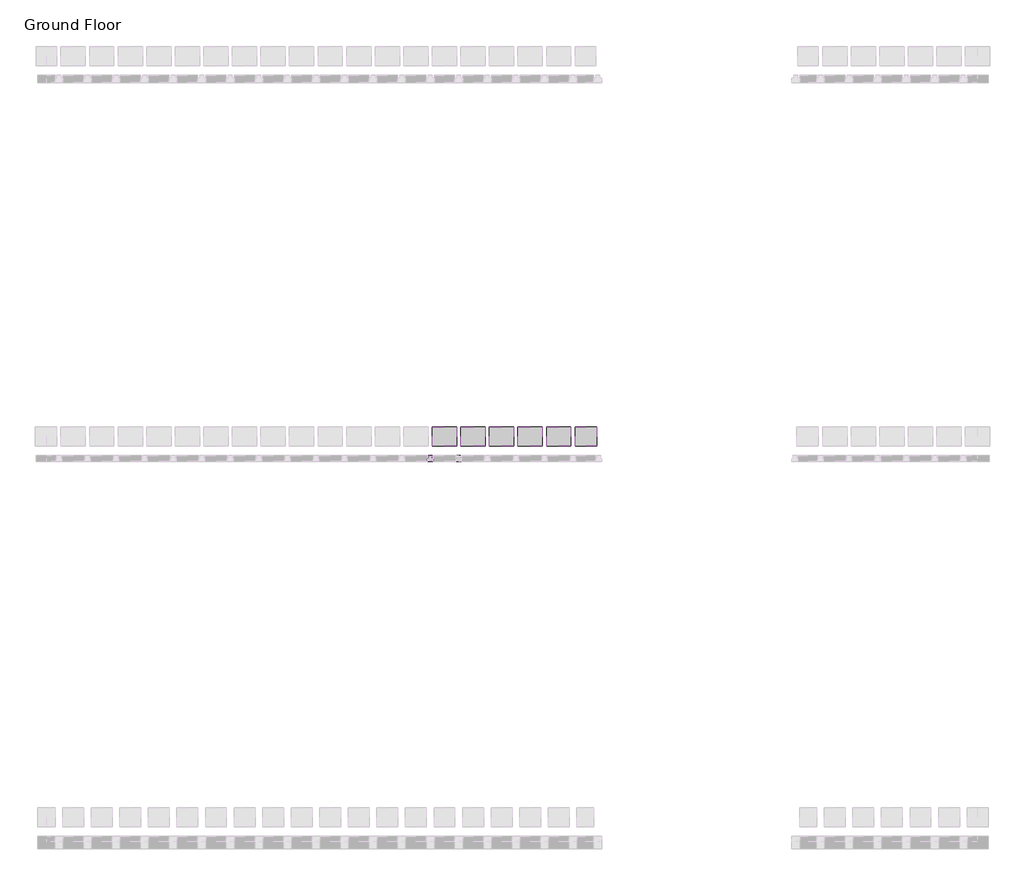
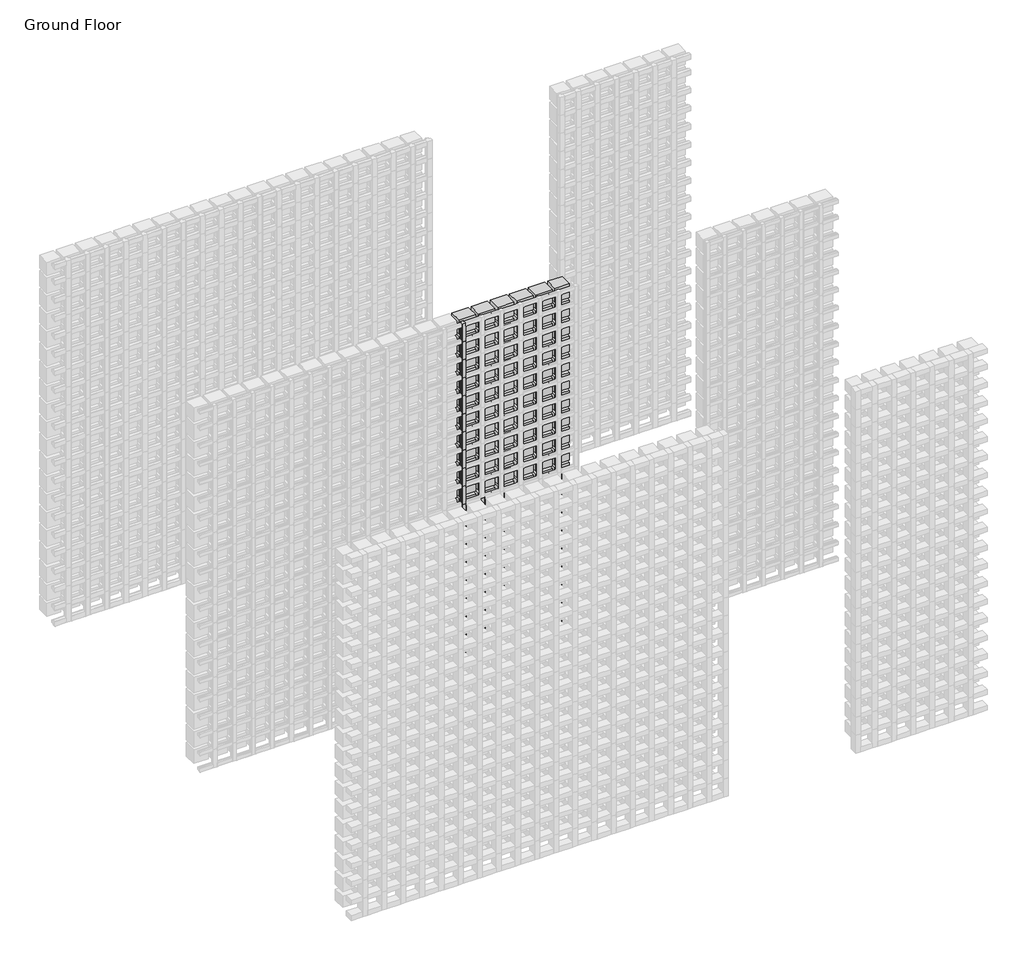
# One storey, part 150 of 350: 111 plates, 28 members.
"""IFC4 building model written with IfcOpenShell, lengths in millimetres."""

from ifc_helpers import new_model, si_unit, origin, place, context, project, spatial, transform, mapped, element, save
from components import rectangular_mullion_f1976eb1, empty_system_panel_empty_5a3607ba, empty_system_panel_empty_babc703c, empty_system_panel_empty_56815599, empty_system_panel_empty_50ac6329

model = new_model("IFC4")

# Units and contexts
model_context = context("Model", 3, world=origin())
ifc_project = project(units=[si_unit("LENGTHUNIT", "METRE", prefix="MILLI")], contexts=[model_context])

# Site, building, storey
site = spatial("IfcSite", under=ifc_project)
building = spatial("IfcBuilding", under=site)
storey = spatial("IfcBuildingStorey", under=building, Name="Ground Floor", Elevation=0.0)

# Members
placement = place(None, origin())
rectangular_mullion_shape = rectangular_mullion_f1976eb1(model_context)
element("IfcMember", 1, ObjectType="Rectangular Mullion : Batten_Timber_Modinex_Austratus_Grid_Fin_30x30_Hemlock", at=placement, inside=storey, context=model_context, shape_type="MappedRepresentation", body=[
    mapped(rectangular_mullion_shape, transform((12016.4361642, 42968.2978302, 150.0), x_axis=(1.0, 0.0, 0.0), y_axis=(0.0, -1.0, 0.0), z_axis=(0.0, 0.0, -1.0))),
])
element("IfcMember", 2, ObjectType="Rectangular Mullion : Batten_Timber_Modinex_Austratus_Grid_Fin_30x30_Hemlock", at=placement, inside=storey, context=model_context, shape_type="MappedRepresentation", body=[
    mapped(rectangular_mullion_shape, transform((12016.4361642, 42968.2978302, 300.0), x_axis=(1.0, 0.0, 0.0), y_axis=(0.0, -1.0, 0.0), z_axis=(0.0, 0.0, -1.0))),
])
element("IfcMember", 3, ObjectType="Rectangular Mullion : Batten_Timber_Modinex_Austratus_Grid_Fin_30x30_Hemlock", at=placement, inside=storey, context=model_context, shape_type="MappedRepresentation", body=[
    mapped(rectangular_mullion_shape, transform((12016.4361642, 42968.2978302, 450.0), x_axis=(1.0, 0.0, 0.0), y_axis=(0.0, -1.0, 0.0), z_axis=(0.0, 0.0, -1.0))),
])
element("IfcMember", 4, ObjectType="Rectangular Mullion : Batten_Timber_Modinex_Austratus_Grid_Fin_30x30_Hemlock", at=placement, inside=storey, context=model_context, shape_type="MappedRepresentation", body=[
    mapped(rectangular_mullion_shape, transform((12016.4361642, 42968.2978302, 600.0), x_axis=(1.0, 0.0, 0.0), y_axis=(0.0, -1.0, 0.0), z_axis=(0.0, 0.0, -1.0))),
])
element("IfcMember", 5, ObjectType="Rectangular Mullion : Batten_Timber_Modinex_Austratus_Grid_Fin_30x30_Hemlock", at=placement, inside=storey, context=model_context, shape_type="MappedRepresentation", body=[
    mapped(rectangular_mullion_shape, transform((12016.4361642, 42968.2978302, 750.0), x_axis=(1.0, 0.0, 0.0), y_axis=(0.0, -1.0, 0.0), z_axis=(0.0, 0.0, -1.0))),
])
element("IfcMember", 6, ObjectType="Rectangular Mullion : Batten_Timber_Modinex_Austratus_Grid_Fin_30x30_Hemlock", at=placement, inside=storey, context=model_context, shape_type="MappedRepresentation", body=[
    mapped(rectangular_mullion_shape, transform((12016.4361642, 42968.2978302, 900.0), x_axis=(1.0, 0.0, 0.0), y_axis=(0.0, -1.0, 0.0), z_axis=(0.0, 0.0, -1.0))),
])
element("IfcMember", 7, ObjectType="Rectangular Mullion : Batten_Timber_Modinex_Austratus_Grid_Fin_30x30_Hemlock", at=placement, inside=storey, context=model_context, shape_type="MappedRepresentation", body=[
    mapped(rectangular_mullion_shape, transform((12016.4361642, 42968.2978302, 1050.0), x_axis=(1.0, 0.0, 0.0), y_axis=(0.0, -1.0, 0.0), z_axis=(0.0, 0.0, -1.0))),
])
element("IfcMember", 8, ObjectType="Rectangular Mullion : Batten_Timber_Modinex_Austratus_Grid_Fin_30x30_Hemlock", at=placement, inside=storey, context=model_context, shape_type="MappedRepresentation", body=[
    mapped(rectangular_mullion_shape, transform((12016.4361642, 42968.2978302, 1200.0), x_axis=(1.0, 0.0, 0.0), y_axis=(0.0, -1.0, 0.0), z_axis=(0.0, 0.0, -1.0))),
])
element("IfcMember", 9, ObjectType="Rectangular Mullion : Batten_Timber_Modinex_Austratus_Grid_Fin_30x30_Hemlock", at=placement, inside=storey, context=model_context, shape_type="MappedRepresentation", body=[
    mapped(rectangular_mullion_shape, transform((12016.4361642, 42968.2978302, 1350.0), x_axis=(1.0, 0.0, 0.0), y_axis=(0.0, -1.0, 0.0), z_axis=(0.0, 0.0, -1.0))),
])
element("IfcMember", 10, ObjectType="Rectangular Mullion : Batten_Timber_Modinex_Austratus_Grid_Fin_30x30_Hemlock", at=placement, inside=storey, context=model_context, shape_type="MappedRepresentation", body=[
    mapped(rectangular_mullion_shape, transform((12016.4361642, 42968.2978302, 1500.0), x_axis=(1.0, 0.0, 0.0), y_axis=(0.0, -1.0, 0.0), z_axis=(0.0, 0.0, -1.0))),
])
element("IfcMember", 11, ObjectType="Rectangular Mullion : Batten_Timber_Modinex_Austratus_Grid_Fin_30x30_Hemlock", at=placement, inside=storey, context=model_context, shape_type="MappedRepresentation", body=[
    mapped(rectangular_mullion_shape, transform((12016.4361642, 42968.2978302, 1650.0), x_axis=(1.0, 0.0, 0.0), y_axis=(0.0, -1.0, 0.0), z_axis=(0.0, 0.0, -1.0))),
])
element("IfcMember", 12, ObjectType="Rectangular Mullion : Batten_Timber_Modinex_Austratus_Grid_Fin_30x30_Hemlock", at=placement, inside=storey, context=model_context, shape_type="MappedRepresentation", body=[
    mapped(rectangular_mullion_shape, transform((12016.4361642, 42968.2978302, 1800.0), x_axis=(1.0, 0.0, 0.0), y_axis=(0.0, -1.0, 0.0), z_axis=(0.0, 0.0, -1.0))),
])
element("IfcMember", 13, ObjectType="Rectangular Mullion : Batten_Timber_Modinex_Austratus_Grid_Fin_30x30_Hemlock", at=placement, inside=storey, context=model_context, shape_type="MappedRepresentation", body=[
    mapped(rectangular_mullion_shape, transform((12016.4361642, 42968.2978302, 1950.0), x_axis=(1.0, 0.0, 0.0), y_axis=(0.0, -1.0, 0.0), z_axis=(0.0, 0.0, -1.0))),
])
element("IfcMember", 14, ObjectType="Rectangular Mullion : Batten_Timber_Modinex_Austratus_Grid_Fin_30x30_Hemlock", at=placement, inside=storey, context=model_context, shape_type="MappedRepresentation", body=[
    mapped(rectangular_mullion_shape, transform((12016.4361642, 42968.2978302, 2100.0), x_axis=(1.0, 0.0, 0.0), y_axis=(0.0, -1.0, 0.0), z_axis=(0.0, 0.0, -1.0))),
])
element("IfcMember", 15, ObjectType="Rectangular Mullion : Batten_Timber_Modinex_Austratus_Grid_Fin_30x30_Hemlock", at=placement, inside=storey, context=model_context, shape_type="MappedRepresentation", body=[
    mapped(rectangular_mullion_shape, transform((12016.4361642, 42968.2978302, 2250.0), x_axis=(1.0, 0.0, 0.0), y_axis=(0.0, -1.0, 0.0), z_axis=(0.0, 0.0, -1.0))),
])
element("IfcMember", 16, ObjectType="Rectangular Mullion : Batten_Timber_Modinex_Austratus_Grid_Fin_30x30_Hemlock", at=placement, inside=storey, context=model_context, shape_type="MappedRepresentation", body=[
    mapped(rectangular_mullion_shape, transform((12016.4361642, 42968.2978302, 2400.0), x_axis=(1.0, 0.0, 0.0), y_axis=(0.0, -1.0, 0.0), z_axis=(0.0, 0.0, -1.0))),
])
element("IfcMember", 17, ObjectType="Rectangular Mullion : Batten_Timber_Modinex_Austratus_Grid_Fin_30x30_Hemlock", at=placement, inside=storey, context=model_context, shape_type="MappedRepresentation", body=[
    mapped(rectangular_mullion_shape, transform((12016.4361642, 42968.2978302, 2550.0), x_axis=(1.0, 0.0, 0.0), y_axis=(0.0, -1.0, 0.0), z_axis=(0.0, 0.0, -1.0))),
])
element("IfcMember", 18, ObjectType="Rectangular Mullion : Batten_Timber_Modinex_Austratus_Grid_Fin_30x30_Hemlock", at=placement, inside=storey, context=model_context, shape_type="MappedRepresentation", body=[
    mapped(rectangular_mullion_shape, transform((12016.4361642, 42968.2978302, 2700.0), x_axis=(1.0, 0.0, 0.0), y_axis=(0.0, -1.0, 0.0), z_axis=(0.0, 0.0, -1.0))),
])
element("IfcMember", 19, ObjectType="Rectangular Mullion : Batten_Timber_Modinex_Austratus_Grid_Fin_30x30_Hemlock", at=placement, inside=storey, context=model_context, shape_type="MappedRepresentation", body=[
    mapped(rectangular_mullion_shape, transform((12166.4361642, 42968.2978302, 150.0), x_axis=(1.0, 0.0, 0.0), y_axis=(0.0, -1.0, 0.0), z_axis=(0.0, 0.0, -1.0))),
])
element("IfcMember", 20, ObjectType="Rectangular Mullion : Batten_Timber_Modinex_Austratus_Grid_Fin_30x30_Hemlock", at=placement, inside=storey, context=model_context, shape_type="MappedRepresentation", body=[
    mapped(rectangular_mullion_shape, transform((12166.4361642, 42968.2978302, 300.0), x_axis=(1.0, 0.0, 0.0), y_axis=(0.0, -1.0, 0.0), z_axis=(0.0, 0.0, -1.0))),
])
element("IfcMember", 21, ObjectType="Rectangular Mullion : Batten_Timber_Modinex_Austratus_Grid_Fin_30x30_Hemlock", at=placement, inside=storey, context=model_context, shape_type="MappedRepresentation", body=[
    mapped(rectangular_mullion_shape, transform((12166.4361642, 42968.2978302, 450.0), x_axis=(1.0, 0.0, 0.0), y_axis=(0.0, -1.0, 0.0), z_axis=(0.0, 0.0, -1.0))),
])
element("IfcMember", 22, ObjectType="Rectangular Mullion : Batten_Timber_Modinex_Austratus_Grid_Fin_30x30_Hemlock", at=placement, inside=storey, context=model_context, shape_type="MappedRepresentation", body=[
    mapped(rectangular_mullion_shape, transform((12166.4361642, 42968.2978302, 600.0), x_axis=(1.0, 0.0, 0.0), y_axis=(0.0, -1.0, 0.0), z_axis=(0.0, 0.0, -1.0))),
])
element("IfcMember", 23, ObjectType="Rectangular Mullion : Batten_Timber_Modinex_Austratus_Grid_Fin_30x30_Hemlock", at=placement, inside=storey, context=model_context, shape_type="MappedRepresentation", body=[
    mapped(rectangular_mullion_shape, transform((12166.4361642, 42968.2978302, 750.0), x_axis=(1.0, 0.0, 0.0), y_axis=(0.0, -1.0, 0.0), z_axis=(0.0, 0.0, -1.0))),
])
element("IfcMember", 24, ObjectType="Rectangular Mullion : Batten_Timber_Modinex_Austratus_Grid_Fin_30x30_Hemlock", at=placement, inside=storey, context=model_context, shape_type="MappedRepresentation", body=[
    mapped(rectangular_mullion_shape, transform((12166.4361642, 42968.2978302, 900.0), x_axis=(1.0, 0.0, 0.0), y_axis=(0.0, -1.0, 0.0), z_axis=(0.0, 0.0, -1.0))),
])
element("IfcMember", 25, ObjectType="Rectangular Mullion : Batten_Timber_Modinex_Austratus_Grid_Fin_30x30_Hemlock", at=placement, inside=storey, context=model_context, shape_type="MappedRepresentation", body=[
    mapped(rectangular_mullion_shape, transform((12166.4361642, 42968.2978302, 1050.0), x_axis=(1.0, 0.0, 0.0), y_axis=(0.0, -1.0, 0.0), z_axis=(0.0, 0.0, -1.0))),
])
element("IfcMember", 26, ObjectType="Rectangular Mullion : Batten_Timber_Modinex_Austratus_Grid_Fin_30x30_Hemlock", at=placement, inside=storey, context=model_context, shape_type="MappedRepresentation", body=[
    mapped(rectangular_mullion_shape, transform((12166.4361642, 42968.2978302, 1200.0), x_axis=(1.0, 0.0, 0.0), y_axis=(0.0, -1.0, 0.0), z_axis=(0.0, 0.0, -1.0))),
])
element("IfcMember", 27, ObjectType="Rectangular Mullion : Batten_Timber_Modinex_Austratus_Grid_Fin_30x30_Hemlock", at=placement, inside=storey, context=model_context, shape_type="MappedRepresentation", body=[
    mapped(rectangular_mullion_shape, transform((12166.4361642, 42968.2978302, 1350.0), x_axis=(1.0, 0.0, 0.0), y_axis=(0.0, -1.0, 0.0), z_axis=(0.0, 0.0, -1.0))),
])
element("IfcMember", 28, ObjectType="Rectangular Mullion : Batten_Timber_Modinex_Austratus_Grid_Fin_30x30_Hemlock", at=placement, inside=storey, context=model_context, shape_type="MappedRepresentation", body=[
    mapped(rectangular_mullion_shape, transform((12016.4361642, 42968.2978302, 2850.0), x_axis=(1.0, 0.0, 0.0), y_axis=(0.0, -1.0, 0.0), z_axis=(0.0, 0.0, -1.0))),
])

# Plates
empty_system_panel_empty_shape = empty_system_panel_empty_5a3607ba(model_context)
element("IfcPlate", 29, ObjectType="Empty System Panel : Empty", at=placement, inside=storey, context=model_context, shape_type="MappedRepresentation", body=[
    mapped(empty_system_panel_empty_shape, transform((12541.4361642, 42968.2978302, 160.812195), x_axis=(1.0, 0.0, 0.0), y_axis=(0.0, 1.0, 0.0), z_axis=(0.0, 0.0, 1.0))),
])
element("IfcPlate", 30, ObjectType="Empty System Panel : Empty", at=placement, inside=storey, context=model_context, shape_type="MappedRepresentation", body=[
    mapped(empty_system_panel_empty_shape, transform((12691.4361642, 42968.2978302, 160.812195), x_axis=(1.0, 0.0, 0.0), y_axis=(0.0, 1.0, 0.0), z_axis=(0.0, 0.0, 1.0))),
])
element("IfcPlate", 31, ObjectType="Empty System Panel : Empty", at=placement, inside=storey, context=model_context, shape_type="MappedRepresentation", body=[
    mapped(empty_system_panel_empty_shape, transform((12091.4361642, 42968.2978302, 310.812195), x_axis=(1.0, 0.0, 0.0), y_axis=(0.0, 1.0, 0.0), z_axis=(0.0, 0.0, 1.0))),
])
element("IfcPlate", 32, ObjectType="Empty System Panel : Empty", at=placement, inside=storey, context=model_context, shape_type="MappedRepresentation", body=[
    mapped(empty_system_panel_empty_shape, transform((12241.4361642, 42968.2978302, 310.812195), x_axis=(1.0, 0.0, 0.0), y_axis=(0.0, 1.0, 0.0), z_axis=(0.0, 0.0, 1.0))),
])
element("IfcPlate", 33, ObjectType="Empty System Panel : Empty", at=placement, inside=storey, context=model_context, shape_type="MappedRepresentation", body=[
    mapped(empty_system_panel_empty_shape, transform((12391.4361642, 42968.2978302, 310.812195), x_axis=(1.0, 0.0, 0.0), y_axis=(0.0, 1.0, 0.0), z_axis=(0.0, 0.0, 1.0))),
])
element("IfcPlate", 34, ObjectType="Empty System Panel : Empty", at=placement, inside=storey, context=model_context, shape_type="MappedRepresentation", body=[
    mapped(empty_system_panel_empty_shape, transform((12541.4361642, 42968.2978302, 310.812195), x_axis=(1.0, 0.0, 0.0), y_axis=(0.0, 1.0, 0.0), z_axis=(0.0, 0.0, 1.0))),
])
element("IfcPlate", 35, ObjectType="Empty System Panel : Empty", at=placement, inside=storey, context=model_context, shape_type="MappedRepresentation", body=[
    mapped(empty_system_panel_empty_shape, transform((12691.4361642, 42968.2978302, 310.812195), x_axis=(1.0, 0.0, 0.0), y_axis=(0.0, 1.0, 0.0), z_axis=(0.0, 0.0, 1.0))),
])
element("IfcPlate", 36, ObjectType="Empty System Panel : Empty", at=placement, inside=storey, context=model_context, shape_type="MappedRepresentation", body=[
    mapped(empty_system_panel_empty_shape, transform((12091.4361642, 42968.2978302, 460.812195), x_axis=(1.0, 0.0, 0.0), y_axis=(0.0, 1.0, 0.0), z_axis=(0.0, 0.0, 1.0))),
])
element("IfcPlate", 37, ObjectType="Empty System Panel : Empty", at=placement, inside=storey, context=model_context, shape_type="MappedRepresentation", body=[
    mapped(empty_system_panel_empty_shape, transform((12241.4361642, 42968.2978302, 460.812195), x_axis=(1.0, 0.0, 0.0), y_axis=(0.0, 1.0, 0.0), z_axis=(0.0, 0.0, 1.0))),
])
element("IfcPlate", 38, ObjectType="Empty System Panel : Empty", at=placement, inside=storey, context=model_context, shape_type="MappedRepresentation", body=[
    mapped(empty_system_panel_empty_shape, transform((12391.4361642, 42968.2978302, 460.812195), x_axis=(1.0, 0.0, 0.0), y_axis=(0.0, 1.0, 0.0), z_axis=(0.0, 0.0, 1.0))),
])
element("IfcPlate", 39, ObjectType="Empty System Panel : Empty", at=placement, inside=storey, context=model_context, shape_type="MappedRepresentation", body=[
    mapped(empty_system_panel_empty_shape, transform((12541.4361642, 42968.2978302, 460.812195), x_axis=(1.0, 0.0, 0.0), y_axis=(0.0, 1.0, 0.0), z_axis=(0.0, 0.0, 1.0))),
])
element("IfcPlate", 40, ObjectType="Empty System Panel : Empty", at=placement, inside=storey, context=model_context, shape_type="MappedRepresentation", body=[
    mapped(empty_system_panel_empty_shape, transform((12691.4361642, 42968.2978302, 460.812195), x_axis=(1.0, 0.0, 0.0), y_axis=(0.0, 1.0, 0.0), z_axis=(0.0, 0.0, 1.0))),
])
element("IfcPlate", 41, ObjectType="Empty System Panel : Empty", at=placement, inside=storey, context=model_context, shape_type="MappedRepresentation", body=[
    mapped(empty_system_panel_empty_shape, transform((12091.4361642, 42968.2978302, 610.812195), x_axis=(1.0, 0.0, 0.0), y_axis=(0.0, 1.0, 0.0), z_axis=(0.0, 0.0, 1.0))),
])
element("IfcPlate", 42, ObjectType="Empty System Panel : Empty", at=placement, inside=storey, context=model_context, shape_type="MappedRepresentation", body=[
    mapped(empty_system_panel_empty_shape, transform((12241.4361642, 42968.2978302, 610.812195), x_axis=(1.0, 0.0, 0.0), y_axis=(0.0, 1.0, 0.0), z_axis=(0.0, 0.0, 1.0))),
])
element("IfcPlate", 43, ObjectType="Empty System Panel : Empty", at=placement, inside=storey, context=model_context, shape_type="MappedRepresentation", body=[
    mapped(empty_system_panel_empty_shape, transform((12391.4361642, 42968.2978302, 610.812195), x_axis=(1.0, 0.0, 0.0), y_axis=(0.0, 1.0, 0.0), z_axis=(0.0, 0.0, 1.0))),
])
element("IfcPlate", 44, ObjectType="Empty System Panel : Empty", at=placement, inside=storey, context=model_context, shape_type="MappedRepresentation", body=[
    mapped(empty_system_panel_empty_shape, transform((12541.4361642, 42968.2978302, 610.812195), x_axis=(1.0, 0.0, 0.0), y_axis=(0.0, 1.0, 0.0), z_axis=(0.0, 0.0, 1.0))),
])
element("IfcPlate", 45, ObjectType="Empty System Panel : Empty", at=placement, inside=storey, context=model_context, shape_type="MappedRepresentation", body=[
    mapped(empty_system_panel_empty_shape, transform((12691.4361642, 42968.2978302, 610.812195), x_axis=(1.0, 0.0, 0.0), y_axis=(0.0, 1.0, 0.0), z_axis=(0.0, 0.0, 1.0))),
])
element("IfcPlate", 46, ObjectType="Empty System Panel : Empty", at=placement, inside=storey, context=model_context, shape_type="MappedRepresentation", body=[
    mapped(empty_system_panel_empty_shape, transform((12091.4361642, 42968.2978302, 760.812195), x_axis=(1.0, 0.0, 0.0), y_axis=(0.0, 1.0, 0.0), z_axis=(0.0, 0.0, 1.0))),
])
element("IfcPlate", 47, ObjectType="Empty System Panel : Empty", at=placement, inside=storey, context=model_context, shape_type="MappedRepresentation", body=[
    mapped(empty_system_panel_empty_shape, transform((12241.4361642, 42968.2978302, 760.812195), x_axis=(1.0, 0.0, 0.0), y_axis=(0.0, 1.0, 0.0), z_axis=(0.0, 0.0, 1.0))),
])
element("IfcPlate", 48, ObjectType="Empty System Panel : Empty", at=placement, inside=storey, context=model_context, shape_type="MappedRepresentation", body=[
    mapped(empty_system_panel_empty_shape, transform((12391.4361642, 42968.2978302, 760.812195), x_axis=(1.0, 0.0, 0.0), y_axis=(0.0, 1.0, 0.0), z_axis=(0.0, 0.0, 1.0))),
])
element("IfcPlate", 49, ObjectType="Empty System Panel : Empty", at=placement, inside=storey, context=model_context, shape_type="MappedRepresentation", body=[
    mapped(empty_system_panel_empty_shape, transform((12541.4361642, 42968.2978302, 760.812195), x_axis=(1.0, 0.0, 0.0), y_axis=(0.0, 1.0, 0.0), z_axis=(0.0, 0.0, 1.0))),
])
element("IfcPlate", 50, ObjectType="Empty System Panel : Empty", at=placement, inside=storey, context=model_context, shape_type="MappedRepresentation", body=[
    mapped(empty_system_panel_empty_shape, transform((12691.4361642, 42968.2978302, 760.812195), x_axis=(1.0, 0.0, 0.0), y_axis=(0.0, 1.0, 0.0), z_axis=(0.0, 0.0, 1.0))),
])
element("IfcPlate", 51, ObjectType="Empty System Panel : Empty", at=placement, inside=storey, context=model_context, shape_type="MappedRepresentation", body=[
    mapped(empty_system_panel_empty_shape, transform((12091.4361642, 42968.2978302, 910.812195), x_axis=(1.0, 0.0, 0.0), y_axis=(0.0, 1.0, 0.0), z_axis=(0.0, 0.0, 1.0))),
])
element("IfcPlate", 52, ObjectType="Empty System Panel : Empty", at=placement, inside=storey, context=model_context, shape_type="MappedRepresentation", body=[
    mapped(empty_system_panel_empty_shape, transform((12241.4361642, 42968.2978302, 910.812195), x_axis=(1.0, 0.0, 0.0), y_axis=(0.0, 1.0, 0.0), z_axis=(0.0, 0.0, 1.0))),
])
element("IfcPlate", 53, ObjectType="Empty System Panel : Empty", at=placement, inside=storey, context=model_context, shape_type="MappedRepresentation", body=[
    mapped(empty_system_panel_empty_shape, transform((12391.4361642, 42968.2978302, 910.812195), x_axis=(1.0, 0.0, 0.0), y_axis=(0.0, 1.0, 0.0), z_axis=(0.0, 0.0, 1.0))),
])
element("IfcPlate", 54, ObjectType="Empty System Panel : Empty", at=placement, inside=storey, context=model_context, shape_type="MappedRepresentation", body=[
    mapped(empty_system_panel_empty_shape, transform((12541.4361642, 42968.2978302, 910.812195), x_axis=(1.0, 0.0, 0.0), y_axis=(0.0, 1.0, 0.0), z_axis=(0.0, 0.0, 1.0))),
])
element("IfcPlate", 55, ObjectType="Empty System Panel : Empty", at=placement, inside=storey, context=model_context, shape_type="MappedRepresentation", body=[
    mapped(empty_system_panel_empty_shape, transform((12691.4361642, 42968.2978302, 910.812195), x_axis=(1.0, 0.0, 0.0), y_axis=(0.0, 1.0, 0.0), z_axis=(0.0, 0.0, 1.0))),
])
element("IfcPlate", 56, ObjectType="Empty System Panel : Empty", at=placement, inside=storey, context=model_context, shape_type="MappedRepresentation", body=[
    mapped(empty_system_panel_empty_shape, transform((12091.4361642, 42968.2978302, 1060.812195), x_axis=(1.0, 0.0, 0.0), y_axis=(0.0, 1.0, 0.0), z_axis=(0.0, 0.0, 1.0))),
])
element("IfcPlate", 57, ObjectType="Empty System Panel : Empty", at=placement, inside=storey, context=model_context, shape_type="MappedRepresentation", body=[
    mapped(empty_system_panel_empty_shape, transform((12241.4361642, 42968.2978302, 1060.812195), x_axis=(1.0, 0.0, 0.0), y_axis=(0.0, 1.0, 0.0), z_axis=(0.0, 0.0, 1.0))),
])
element("IfcPlate", 58, ObjectType="Empty System Panel : Empty", at=placement, inside=storey, context=model_context, shape_type="MappedRepresentation", body=[
    mapped(empty_system_panel_empty_shape, transform((12391.4361642, 42968.2978302, 1060.812195), x_axis=(1.0, 0.0, 0.0), y_axis=(0.0, 1.0, 0.0), z_axis=(0.0, 0.0, 1.0))),
])
element("IfcPlate", 59, ObjectType="Empty System Panel : Empty", at=placement, inside=storey, context=model_context, shape_type="MappedRepresentation", body=[
    mapped(empty_system_panel_empty_shape, transform((12541.4361642, 42968.2978302, 1060.812195), x_axis=(1.0, 0.0, 0.0), y_axis=(0.0, 1.0, 0.0), z_axis=(0.0, 0.0, 1.0))),
])
element("IfcPlate", 60, ObjectType="Empty System Panel : Empty", at=placement, inside=storey, context=model_context, shape_type="MappedRepresentation", body=[
    mapped(empty_system_panel_empty_shape, transform((12691.4361642, 42968.2978302, 1060.812195), x_axis=(1.0, 0.0, 0.0), y_axis=(0.0, 1.0, 0.0), z_axis=(0.0, 0.0, 1.0))),
])
element("IfcPlate", 61, ObjectType="Empty System Panel : Empty", at=placement, inside=storey, context=model_context, shape_type="MappedRepresentation", body=[
    mapped(empty_system_panel_empty_shape, transform((12091.4361642, 42968.2978302, 1210.812195), x_axis=(1.0, 0.0, 0.0), y_axis=(0.0, 1.0, 0.0), z_axis=(0.0, 0.0, 1.0))),
])
element("IfcPlate", 62, ObjectType="Empty System Panel : Empty", at=placement, inside=storey, context=model_context, shape_type="MappedRepresentation", body=[
    mapped(empty_system_panel_empty_shape, transform((12241.4361642, 42968.2978302, 1210.812195), x_axis=(1.0, 0.0, 0.0), y_axis=(0.0, 1.0, 0.0), z_axis=(0.0, 0.0, 1.0))),
])
element("IfcPlate", 63, ObjectType="Empty System Panel : Empty", at=placement, inside=storey, context=model_context, shape_type="MappedRepresentation", body=[
    mapped(empty_system_panel_empty_shape, transform((12391.4361642, 42968.2978302, 1210.812195), x_axis=(1.0, 0.0, 0.0), y_axis=(0.0, 1.0, 0.0), z_axis=(0.0, 0.0, 1.0))),
])
element("IfcPlate", 64, ObjectType="Empty System Panel : Empty", at=placement, inside=storey, context=model_context, shape_type="MappedRepresentation", body=[
    mapped(empty_system_panel_empty_shape, transform((12541.4361642, 42968.2978302, 1210.812195), x_axis=(1.0, 0.0, 0.0), y_axis=(0.0, 1.0, 0.0), z_axis=(0.0, 0.0, 1.0))),
])
element("IfcPlate", 65, ObjectType="Empty System Panel : Empty", at=placement, inside=storey, context=model_context, shape_type="MappedRepresentation", body=[
    mapped(empty_system_panel_empty_shape, transform((12691.4361642, 42968.2978302, 1210.812195), x_axis=(1.0, 0.0, 0.0), y_axis=(0.0, 1.0, 0.0), z_axis=(0.0, 0.0, 1.0))),
])
element("IfcPlate", 66, ObjectType="Empty System Panel : Empty", at=placement, inside=storey, context=model_context, shape_type="MappedRepresentation", body=[
    mapped(empty_system_panel_empty_shape, transform((12091.4361642, 42968.2978302, 1360.812195), x_axis=(1.0, 0.0, 0.0), y_axis=(0.0, 1.0, 0.0), z_axis=(0.0, 0.0, 1.0))),
])
element("IfcPlate", 67, ObjectType="Empty System Panel : Empty", at=placement, inside=storey, context=model_context, shape_type="MappedRepresentation", body=[
    mapped(empty_system_panel_empty_shape, transform((12241.4361642, 42968.2978302, 1360.812195), x_axis=(1.0, 0.0, 0.0), y_axis=(0.0, 1.0, 0.0), z_axis=(0.0, 0.0, 1.0))),
])
element("IfcPlate", 68, ObjectType="Empty System Panel : Empty", at=placement, inside=storey, context=model_context, shape_type="MappedRepresentation", body=[
    mapped(empty_system_panel_empty_shape, transform((12391.4361642, 42968.2978302, 1360.812195), x_axis=(1.0, 0.0, 0.0), y_axis=(0.0, 1.0, 0.0), z_axis=(0.0, 0.0, 1.0))),
])
element("IfcPlate", 69, ObjectType="Empty System Panel : Empty", at=placement, inside=storey, context=model_context, shape_type="MappedRepresentation", body=[
    mapped(empty_system_panel_empty_shape, transform((12541.4361642, 42968.2978302, 1360.812195), x_axis=(1.0, 0.0, 0.0), y_axis=(0.0, 1.0, 0.0), z_axis=(0.0, 0.0, 1.0))),
])
element("IfcPlate", 70, ObjectType="Empty System Panel : Empty", at=placement, inside=storey, context=model_context, shape_type="MappedRepresentation", body=[
    mapped(empty_system_panel_empty_shape, transform((12691.4361642, 42968.2978302, 1360.812195), x_axis=(1.0, 0.0, 0.0), y_axis=(0.0, 1.0, 0.0), z_axis=(0.0, 0.0, 1.0))),
])
element("IfcPlate", 71, ObjectType="Empty System Panel : Empty", at=placement, inside=storey, context=model_context, shape_type="MappedRepresentation", body=[
    mapped(empty_system_panel_empty_shape, transform((12091.4361642, 42968.2978302, 1510.812195), x_axis=(1.0, 0.0, 0.0), y_axis=(0.0, 1.0, 0.0), z_axis=(0.0, 0.0, 1.0))),
])
element("IfcPlate", 72, ObjectType="Empty System Panel : Empty", at=placement, inside=storey, context=model_context, shape_type="MappedRepresentation", body=[
    mapped(empty_system_panel_empty_shape, transform((12241.4361642, 42968.2978302, 1510.812195), x_axis=(1.0, 0.0, 0.0), y_axis=(0.0, 1.0, 0.0), z_axis=(0.0, 0.0, 1.0))),
])
element("IfcPlate", 73, ObjectType="Empty System Panel : Empty", at=placement, inside=storey, context=model_context, shape_type="MappedRepresentation", body=[
    mapped(empty_system_panel_empty_shape, transform((12391.4361642, 42968.2978302, 1510.812195), x_axis=(1.0, 0.0, 0.0), y_axis=(0.0, 1.0, 0.0), z_axis=(0.0, 0.0, 1.0))),
])
element("IfcPlate", 74, ObjectType="Empty System Panel : Empty", at=placement, inside=storey, context=model_context, shape_type="MappedRepresentation", body=[
    mapped(empty_system_panel_empty_shape, transform((12541.4361642, 42968.2978302, 1510.812195), x_axis=(1.0, 0.0, 0.0), y_axis=(0.0, 1.0, 0.0), z_axis=(0.0, 0.0, 1.0))),
])
element("IfcPlate", 75, ObjectType="Empty System Panel : Empty", at=placement, inside=storey, context=model_context, shape_type="MappedRepresentation", body=[
    mapped(empty_system_panel_empty_shape, transform((12691.4361642, 42968.2978302, 1510.812195), x_axis=(1.0, 0.0, 0.0), y_axis=(0.0, 1.0, 0.0), z_axis=(0.0, 0.0, 1.0))),
])
element("IfcPlate", 76, ObjectType="Empty System Panel : Empty", at=placement, inside=storey, context=model_context, shape_type="MappedRepresentation", body=[
    mapped(empty_system_panel_empty_shape, transform((12091.4361642, 42968.2978302, 1660.812195), x_axis=(1.0, 0.0, 0.0), y_axis=(0.0, 1.0, 0.0), z_axis=(0.0, 0.0, 1.0))),
])
element("IfcPlate", 77, ObjectType="Empty System Panel : Empty", at=placement, inside=storey, context=model_context, shape_type="MappedRepresentation", body=[
    mapped(empty_system_panel_empty_shape, transform((12241.4361642, 42968.2978302, 1660.812195), x_axis=(1.0, 0.0, 0.0), y_axis=(0.0, 1.0, 0.0), z_axis=(0.0, 0.0, 1.0))),
])
element("IfcPlate", 78, ObjectType="Empty System Panel : Empty", at=placement, inside=storey, context=model_context, shape_type="MappedRepresentation", body=[
    mapped(empty_system_panel_empty_shape, transform((12391.4361642, 42968.2978302, 1660.812195), x_axis=(1.0, 0.0, 0.0), y_axis=(0.0, 1.0, 0.0), z_axis=(0.0, 0.0, 1.0))),
])
element("IfcPlate", 79, ObjectType="Empty System Panel : Empty", at=placement, inside=storey, context=model_context, shape_type="MappedRepresentation", body=[
    mapped(empty_system_panel_empty_shape, transform((12541.4361642, 42968.2978302, 1660.812195), x_axis=(1.0, 0.0, 0.0), y_axis=(0.0, 1.0, 0.0), z_axis=(0.0, 0.0, 1.0))),
])
element("IfcPlate", 80, ObjectType="Empty System Panel : Empty", at=placement, inside=storey, context=model_context, shape_type="MappedRepresentation", body=[
    mapped(empty_system_panel_empty_shape, transform((12691.4361642, 42968.2978302, 1660.812195), x_axis=(1.0, 0.0, 0.0), y_axis=(0.0, 1.0, 0.0), z_axis=(0.0, 0.0, 1.0))),
])
element("IfcPlate", 81, ObjectType="Empty System Panel : Empty", at=placement, inside=storey, context=model_context, shape_type="MappedRepresentation", body=[
    mapped(empty_system_panel_empty_shape, transform((12091.4361642, 42968.2978302, 1810.812195), x_axis=(1.0, 0.0, 0.0), y_axis=(0.0, 1.0, 0.0), z_axis=(0.0, 0.0, 1.0))),
])
element("IfcPlate", 82, ObjectType="Empty System Panel : Empty", at=placement, inside=storey, context=model_context, shape_type="MappedRepresentation", body=[
    mapped(empty_system_panel_empty_shape, transform((12241.4361642, 42968.2978302, 1810.812195), x_axis=(1.0, 0.0, 0.0), y_axis=(0.0, 1.0, 0.0), z_axis=(0.0, 0.0, 1.0))),
])
element("IfcPlate", 83, ObjectType="Empty System Panel : Empty", at=placement, inside=storey, context=model_context, shape_type="MappedRepresentation", body=[
    mapped(empty_system_panel_empty_shape, transform((12391.4361642, 42968.2978302, 1810.812195), x_axis=(1.0, 0.0, 0.0), y_axis=(0.0, 1.0, 0.0), z_axis=(0.0, 0.0, 1.0))),
])
element("IfcPlate", 84, ObjectType="Empty System Panel : Empty", at=placement, inside=storey, context=model_context, shape_type="MappedRepresentation", body=[
    mapped(empty_system_panel_empty_shape, transform((12541.4361642, 42968.2978302, 1810.812195), x_axis=(1.0, 0.0, 0.0), y_axis=(0.0, 1.0, 0.0), z_axis=(0.0, 0.0, 1.0))),
])
element("IfcPlate", 85, ObjectType="Empty System Panel : Empty", at=placement, inside=storey, context=model_context, shape_type="MappedRepresentation", body=[
    mapped(empty_system_panel_empty_shape, transform((12691.4361642, 42968.2978302, 1810.812195), x_axis=(1.0, 0.0, 0.0), y_axis=(0.0, 1.0, 0.0), z_axis=(0.0, 0.0, 1.0))),
])
element("IfcPlate", 86, ObjectType="Empty System Panel : Empty", at=placement, inside=storey, context=model_context, shape_type="MappedRepresentation", body=[
    mapped(empty_system_panel_empty_shape, transform((12091.4361642, 42968.2978302, 1960.812195), x_axis=(1.0, 0.0, 0.0), y_axis=(0.0, 1.0, 0.0), z_axis=(0.0, 0.0, 1.0))),
])
element("IfcPlate", 87, ObjectType="Empty System Panel : Empty", at=placement, inside=storey, context=model_context, shape_type="MappedRepresentation", body=[
    mapped(empty_system_panel_empty_shape, transform((12241.4361642, 42968.2978302, 1960.812195), x_axis=(1.0, 0.0, 0.0), y_axis=(0.0, 1.0, 0.0), z_axis=(0.0, 0.0, 1.0))),
])
element("IfcPlate", 88, ObjectType="Empty System Panel : Empty", at=placement, inside=storey, context=model_context, shape_type="MappedRepresentation", body=[
    mapped(empty_system_panel_empty_shape, transform((12391.4361642, 42968.2978302, 1960.812195), x_axis=(1.0, 0.0, 0.0), y_axis=(0.0, 1.0, 0.0), z_axis=(0.0, 0.0, 1.0))),
])
element("IfcPlate", 89, ObjectType="Empty System Panel : Empty", at=placement, inside=storey, context=model_context, shape_type="MappedRepresentation", body=[
    mapped(empty_system_panel_empty_shape, transform((12541.4361642, 42968.2978302, 1960.812195), x_axis=(1.0, 0.0, 0.0), y_axis=(0.0, 1.0, 0.0), z_axis=(0.0, 0.0, 1.0))),
])
element("IfcPlate", 90, ObjectType="Empty System Panel : Empty", at=placement, inside=storey, context=model_context, shape_type="MappedRepresentation", body=[
    mapped(empty_system_panel_empty_shape, transform((12691.4361642, 42968.2978302, 1960.812195), x_axis=(1.0, 0.0, 0.0), y_axis=(0.0, 1.0, 0.0), z_axis=(0.0, 0.0, 1.0))),
])
element("IfcPlate", 91, ObjectType="Empty System Panel : Empty", at=placement, inside=storey, context=model_context, shape_type="MappedRepresentation", body=[
    mapped(empty_system_panel_empty_shape, transform((12091.4361642, 42968.2978302, 2110.812195), x_axis=(1.0, 0.0, 0.0), y_axis=(0.0, 1.0, 0.0), z_axis=(0.0, 0.0, 1.0))),
])
element("IfcPlate", 92, ObjectType="Empty System Panel : Empty", at=placement, inside=storey, context=model_context, shape_type="MappedRepresentation", body=[
    mapped(empty_system_panel_empty_shape, transform((12241.4361642, 42968.2978302, 2110.812195), x_axis=(1.0, 0.0, 0.0), y_axis=(0.0, 1.0, 0.0), z_axis=(0.0, 0.0, 1.0))),
])
element("IfcPlate", 93, ObjectType="Empty System Panel : Empty", at=placement, inside=storey, context=model_context, shape_type="MappedRepresentation", body=[
    mapped(empty_system_panel_empty_shape, transform((12391.4361642, 42968.2978302, 2110.812195), x_axis=(1.0, 0.0, 0.0), y_axis=(0.0, 1.0, 0.0), z_axis=(0.0, 0.0, 1.0))),
])
element("IfcPlate", 94, ObjectType="Empty System Panel : Empty", at=placement, inside=storey, context=model_context, shape_type="MappedRepresentation", body=[
    mapped(empty_system_panel_empty_shape, transform((12541.4361642, 42968.2978302, 2110.812195), x_axis=(1.0, 0.0, 0.0), y_axis=(0.0, 1.0, 0.0), z_axis=(0.0, 0.0, 1.0))),
])
element("IfcPlate", 95, ObjectType="Empty System Panel : Empty", at=placement, inside=storey, context=model_context, shape_type="MappedRepresentation", body=[
    mapped(empty_system_panel_empty_shape, transform((12691.4361642, 42968.2978302, 2110.812195), x_axis=(1.0, 0.0, 0.0), y_axis=(0.0, 1.0, 0.0), z_axis=(0.0, 0.0, 1.0))),
])
element("IfcPlate", 96, ObjectType="Empty System Panel : Empty", at=placement, inside=storey, context=model_context, shape_type="MappedRepresentation", body=[
    mapped(empty_system_panel_empty_shape, transform((12091.4361642, 42968.2978302, 2260.812195), x_axis=(1.0, 0.0, 0.0), y_axis=(0.0, 1.0, 0.0), z_axis=(0.0, 0.0, 1.0))),
])
element("IfcPlate", 97, ObjectType="Empty System Panel : Empty", at=placement, inside=storey, context=model_context, shape_type="MappedRepresentation", body=[
    mapped(empty_system_panel_empty_shape, transform((12241.4361642, 42968.2978302, 2260.812195), x_axis=(1.0, 0.0, 0.0), y_axis=(0.0, 1.0, 0.0), z_axis=(0.0, 0.0, 1.0))),
])
element("IfcPlate", 98, ObjectType="Empty System Panel : Empty", at=placement, inside=storey, context=model_context, shape_type="MappedRepresentation", body=[
    mapped(empty_system_panel_empty_shape, transform((12391.4361642, 42968.2978302, 2260.812195), x_axis=(1.0, 0.0, 0.0), y_axis=(0.0, 1.0, 0.0), z_axis=(0.0, 0.0, 1.0))),
])
element("IfcPlate", 99, ObjectType="Empty System Panel : Empty", at=placement, inside=storey, context=model_context, shape_type="MappedRepresentation", body=[
    mapped(empty_system_panel_empty_shape, transform((12541.4361642, 42968.2978302, 2260.812195), x_axis=(1.0, 0.0, 0.0), y_axis=(0.0, 1.0, 0.0), z_axis=(0.0, 0.0, 1.0))),
])
element("IfcPlate", 100, ObjectType="Empty System Panel : Empty", at=placement, inside=storey, context=model_context, shape_type="MappedRepresentation", body=[
    mapped(empty_system_panel_empty_shape, transform((12691.4361642, 42968.2978302, 2260.812195), x_axis=(1.0, 0.0, 0.0), y_axis=(0.0, 1.0, 0.0), z_axis=(0.0, 0.0, 1.0))),
])
element("IfcPlate", 101, ObjectType="Empty System Panel : Empty", at=placement, inside=storey, context=model_context, shape_type="MappedRepresentation", body=[
    mapped(empty_system_panel_empty_shape, transform((12091.4361642, 42968.2978302, 2410.812195), x_axis=(1.0, 0.0, 0.0), y_axis=(0.0, 1.0, 0.0), z_axis=(0.0, 0.0, 1.0))),
])
element("IfcPlate", 102, ObjectType="Empty System Panel : Empty", at=placement, inside=storey, context=model_context, shape_type="MappedRepresentation", body=[
    mapped(empty_system_panel_empty_shape, transform((12241.4361642, 42968.2978302, 2410.812195), x_axis=(1.0, 0.0, 0.0), y_axis=(0.0, 1.0, 0.0), z_axis=(0.0, 0.0, 1.0))),
])
element("IfcPlate", 103, ObjectType="Empty System Panel : Empty", at=placement, inside=storey, context=model_context, shape_type="MappedRepresentation", body=[
    mapped(empty_system_panel_empty_shape, transform((12391.4361642, 42968.2978302, 2410.812195), x_axis=(1.0, 0.0, 0.0), y_axis=(0.0, 1.0, 0.0), z_axis=(0.0, 0.0, 1.0))),
])
element("IfcPlate", 104, ObjectType="Empty System Panel : Empty", at=placement, inside=storey, context=model_context, shape_type="MappedRepresentation", body=[
    mapped(empty_system_panel_empty_shape, transform((12541.4361642, 42968.2978302, 2410.812195), x_axis=(1.0, 0.0, 0.0), y_axis=(0.0, 1.0, 0.0), z_axis=(0.0, 0.0, 1.0))),
])
element("IfcPlate", 105, ObjectType="Empty System Panel : Empty", at=placement, inside=storey, context=model_context, shape_type="MappedRepresentation", body=[
    mapped(empty_system_panel_empty_shape, transform((12691.4361642, 42968.2978302, 2410.812195), x_axis=(1.0, 0.0, 0.0), y_axis=(0.0, 1.0, 0.0), z_axis=(0.0, 0.0, 1.0))),
])
element("IfcPlate", 106, ObjectType="Empty System Panel : Empty", at=placement, inside=storey, context=model_context, shape_type="MappedRepresentation", body=[
    mapped(empty_system_panel_empty_shape, transform((12091.4361642, 42968.2978302, 2560.812195), x_axis=(1.0, 0.0, 0.0), y_axis=(0.0, 1.0, 0.0), z_axis=(0.0, 0.0, 1.0))),
])
element("IfcPlate", 107, ObjectType="Empty System Panel : Empty", at=placement, inside=storey, context=model_context, shape_type="MappedRepresentation", body=[
    mapped(empty_system_panel_empty_shape, transform((12241.4361642, 42968.2978302, 2560.812195), x_axis=(1.0, 0.0, 0.0), y_axis=(0.0, 1.0, 0.0), z_axis=(0.0, 0.0, 1.0))),
])
element("IfcPlate", 108, ObjectType="Empty System Panel : Empty", at=placement, inside=storey, context=model_context, shape_type="MappedRepresentation", body=[
    mapped(empty_system_panel_empty_shape, transform((12391.4361642, 42968.2978302, 2560.812195), x_axis=(1.0, 0.0, 0.0), y_axis=(0.0, 1.0, 0.0), z_axis=(0.0, 0.0, 1.0))),
])
element("IfcPlate", 109, ObjectType="Empty System Panel : Empty", at=placement, inside=storey, context=model_context, shape_type="MappedRepresentation", body=[
    mapped(empty_system_panel_empty_shape, transform((12541.4361642, 42968.2978302, 2560.812195), x_axis=(1.0, 0.0, 0.0), y_axis=(0.0, 1.0, 0.0), z_axis=(0.0, 0.0, 1.0))),
])
element("IfcPlate", 110, ObjectType="Empty System Panel : Empty", at=placement, inside=storey, context=model_context, shape_type="MappedRepresentation", body=[
    mapped(empty_system_panel_empty_shape, transform((12691.4361642, 42968.2978302, 2560.812195), x_axis=(1.0, 0.0, 0.0), y_axis=(0.0, 1.0, 0.0), z_axis=(0.0, 0.0, 1.0))),
])
element("IfcPlate", 111, ObjectType="Empty System Panel : Empty", at=placement, inside=storey, context=model_context, shape_type="MappedRepresentation", body=[
    mapped(empty_system_panel_empty_shape, transform((12091.4361642, 42968.2978302, 2710.812195), x_axis=(1.0, 0.0, 0.0), y_axis=(0.0, 1.0, 0.0), z_axis=(0.0, 0.0, 1.0))),
])
element("IfcPlate", 112, ObjectType="Empty System Panel : Empty", at=placement, inside=storey, context=model_context, shape_type="MappedRepresentation", body=[
    mapped(empty_system_panel_empty_shape, transform((12241.4361642, 42968.2978302, 2710.812195), x_axis=(1.0, 0.0, 0.0), y_axis=(0.0, 1.0, 0.0), z_axis=(0.0, 0.0, 1.0))),
])
element("IfcPlate", 113, ObjectType="Empty System Panel : Empty", at=placement, inside=storey, context=model_context, shape_type="MappedRepresentation", body=[
    mapped(empty_system_panel_empty_shape, transform((12391.4361642, 42968.2978302, 2710.812195), x_axis=(1.0, 0.0, 0.0), y_axis=(0.0, 1.0, 0.0), z_axis=(0.0, 0.0, 1.0))),
])
element("IfcPlate", 114, ObjectType="Empty System Panel : Empty", at=placement, inside=storey, context=model_context, shape_type="MappedRepresentation", body=[
    mapped(empty_system_panel_empty_shape, transform((12541.4361642, 42968.2978302, 2710.812195), x_axis=(1.0, 0.0, 0.0), y_axis=(0.0, 1.0, 0.0), z_axis=(0.0, 0.0, 1.0))),
])
element("IfcPlate", 115, ObjectType="Empty System Panel : Empty", at=placement, inside=storey, context=model_context, shape_type="MappedRepresentation", body=[
    mapped(empty_system_panel_empty_shape, transform((12691.4361642, 42968.2978302, 2710.812195), x_axis=(1.0, 0.0, 0.0), y_axis=(0.0, 1.0, 0.0), z_axis=(0.0, 0.0, 1.0))),
])
empty_system_panel_empty_2_shape = empty_system_panel_empty_babc703c(model_context)
element("IfcPlate", 116, ObjectType="Empty System Panel : Empty", at=placement, inside=storey, context=model_context, shape_type="MappedRepresentation", body=[
    mapped(empty_system_panel_empty_2_shape, transform((12091.4361642, 42968.2978302, 2860.812195), x_axis=(1.0, 0.0, 0.0), y_axis=(0.0, 1.0, 0.0), z_axis=(0.0, 0.0, 1.0))),
])
element("IfcPlate", 117, ObjectType="Empty System Panel : Empty", at=placement, inside=storey, context=model_context, shape_type="MappedRepresentation", body=[
    mapped(empty_system_panel_empty_2_shape, transform((12241.4361642, 42968.2978302, 2860.812195), x_axis=(1.0, 0.0, 0.0), y_axis=(0.0, 1.0, 0.0), z_axis=(0.0, 0.0, 1.0))),
])
element("IfcPlate", 118, ObjectType="Empty System Panel : Empty", at=placement, inside=storey, context=model_context, shape_type="MappedRepresentation", body=[
    mapped(empty_system_panel_empty_2_shape, transform((12391.4361642, 42968.2978302, 2860.812195), x_axis=(1.0, 0.0, 0.0), y_axis=(0.0, 1.0, 0.0), z_axis=(0.0, 0.0, 1.0))),
])
element("IfcPlate", 119, ObjectType="Empty System Panel : Empty", at=placement, inside=storey, context=model_context, shape_type="MappedRepresentation", body=[
    mapped(empty_system_panel_empty_2_shape, transform((12541.4361642, 42968.2978302, 2860.812195), x_axis=(1.0, 0.0, 0.0), y_axis=(0.0, 1.0, 0.0), z_axis=(0.0, 0.0, 1.0))),
])
element("IfcPlate", 120, ObjectType="Empty System Panel : Empty", at=placement, inside=storey, context=model_context, shape_type="MappedRepresentation", body=[
    mapped(empty_system_panel_empty_2_shape, transform((12691.4361642, 42968.2978302, 2860.812195), x_axis=(1.0, 0.0, 0.0), y_axis=(0.0, 1.0, 0.0), z_axis=(0.0, 0.0, 1.0))),
])
empty_system_panel_empty_3_shape = empty_system_panel_empty_56815599(model_context)
element("IfcPlate", 121, ObjectType="Empty System Panel : Empty", at=placement, inside=storey, context=model_context, shape_type="MappedRepresentation", body=[
    mapped(empty_system_panel_empty_3_shape, transform((12833.9361641, 42968.2978302, 2860.812195), x_axis=(1.0, 0.0, 0.0), y_axis=(0.0, 1.0, 0.0), z_axis=(0.0, 0.0, 1.0))),
])
empty_system_panel_empty_4_shape = empty_system_panel_empty_50ac6329(model_context)
element("IfcPlate", 122, ObjectType="Empty System Panel : Empty", at=placement, inside=storey, context=model_context, shape_type="MappedRepresentation", body=[
    mapped(empty_system_panel_empty_4_shape, transform((12833.9361641, 42968.2978302, 160.812195), x_axis=(1.0, 0.0, 0.0), y_axis=(0.0, 1.0, 0.0), z_axis=(0.0, 0.0, 1.0))),
])
element("IfcPlate", 123, ObjectType="Empty System Panel : Empty", at=placement, inside=storey, context=model_context, shape_type="MappedRepresentation", body=[
    mapped(empty_system_panel_empty_4_shape, transform((12833.9361641, 42968.2978302, 310.812195), x_axis=(1.0, 0.0, 0.0), y_axis=(0.0, 1.0, 0.0), z_axis=(0.0, 0.0, 1.0))),
])
element("IfcPlate", 124, ObjectType="Empty System Panel : Empty", at=placement, inside=storey, context=model_context, shape_type="MappedRepresentation", body=[
    mapped(empty_system_panel_empty_4_shape, transform((12833.9361641, 42968.2978302, 460.812195), x_axis=(1.0, 0.0, 0.0), y_axis=(0.0, 1.0, 0.0), z_axis=(0.0, 0.0, 1.0))),
])
element("IfcPlate", 125, ObjectType="Empty System Panel : Empty", at=placement, inside=storey, context=model_context, shape_type="MappedRepresentation", body=[
    mapped(empty_system_panel_empty_4_shape, transform((12833.9361641, 42968.2978302, 610.812195), x_axis=(1.0, 0.0, 0.0), y_axis=(0.0, 1.0, 0.0), z_axis=(0.0, 0.0, 1.0))),
])
element("IfcPlate", 126, ObjectType="Empty System Panel : Empty", at=placement, inside=storey, context=model_context, shape_type="MappedRepresentation", body=[
    mapped(empty_system_panel_empty_4_shape, transform((12833.9361641, 42968.2978302, 760.812195), x_axis=(1.0, 0.0, 0.0), y_axis=(0.0, 1.0, 0.0), z_axis=(0.0, 0.0, 1.0))),
])
element("IfcPlate", 127, ObjectType="Empty System Panel : Empty", at=placement, inside=storey, context=model_context, shape_type="MappedRepresentation", body=[
    mapped(empty_system_panel_empty_4_shape, transform((12833.9361641, 42968.2978302, 910.812195), x_axis=(1.0, 0.0, 0.0), y_axis=(0.0, 1.0, 0.0), z_axis=(0.0, 0.0, 1.0))),
])
element("IfcPlate", 128, ObjectType="Empty System Panel : Empty", at=placement, inside=storey, context=model_context, shape_type="MappedRepresentation", body=[
    mapped(empty_system_panel_empty_4_shape, transform((12833.9361641, 42968.2978302, 1060.812195), x_axis=(1.0, 0.0, 0.0), y_axis=(0.0, 1.0, 0.0), z_axis=(0.0, 0.0, 1.0))),
])
element("IfcPlate", 129, ObjectType="Empty System Panel : Empty", at=placement, inside=storey, context=model_context, shape_type="MappedRepresentation", body=[
    mapped(empty_system_panel_empty_4_shape, transform((12833.9361641, 42968.2978302, 1210.812195), x_axis=(1.0, 0.0, 0.0), y_axis=(0.0, 1.0, 0.0), z_axis=(0.0, 0.0, 1.0))),
])
element("IfcPlate", 130, ObjectType="Empty System Panel : Empty", at=placement, inside=storey, context=model_context, shape_type="MappedRepresentation", body=[
    mapped(empty_system_panel_empty_4_shape, transform((12833.9361641, 42968.2978302, 1360.812195), x_axis=(1.0, 0.0, 0.0), y_axis=(0.0, 1.0, 0.0), z_axis=(0.0, 0.0, 1.0))),
])
element("IfcPlate", 131, ObjectType="Empty System Panel : Empty", at=placement, inside=storey, context=model_context, shape_type="MappedRepresentation", body=[
    mapped(empty_system_panel_empty_4_shape, transform((12833.9361641, 42968.2978302, 1510.812195), x_axis=(1.0, 0.0, 0.0), y_axis=(0.0, 1.0, 0.0), z_axis=(0.0, 0.0, 1.0))),
])
element("IfcPlate", 132, ObjectType="Empty System Panel : Empty", at=placement, inside=storey, context=model_context, shape_type="MappedRepresentation", body=[
    mapped(empty_system_panel_empty_4_shape, transform((12833.9361641, 42968.2978302, 1660.812195), x_axis=(1.0, 0.0, 0.0), y_axis=(0.0, 1.0, 0.0), z_axis=(0.0, 0.0, 1.0))),
])
element("IfcPlate", 133, ObjectType="Empty System Panel : Empty", at=placement, inside=storey, context=model_context, shape_type="MappedRepresentation", body=[
    mapped(empty_system_panel_empty_4_shape, transform((12833.9361641, 42968.2978302, 1810.812195), x_axis=(1.0, 0.0, 0.0), y_axis=(0.0, 1.0, 0.0), z_axis=(0.0, 0.0, 1.0))),
])
element("IfcPlate", 134, ObjectType="Empty System Panel : Empty", at=placement, inside=storey, context=model_context, shape_type="MappedRepresentation", body=[
    mapped(empty_system_panel_empty_4_shape, transform((12833.9361641, 42968.2978302, 1960.812195), x_axis=(1.0, 0.0, 0.0), y_axis=(0.0, 1.0, 0.0), z_axis=(0.0, 0.0, 1.0))),
])
element("IfcPlate", 135, ObjectType="Empty System Panel : Empty", at=placement, inside=storey, context=model_context, shape_type="MappedRepresentation", body=[
    mapped(empty_system_panel_empty_4_shape, transform((12833.9361641, 42968.2978302, 2110.812195), x_axis=(1.0, 0.0, 0.0), y_axis=(0.0, 1.0, 0.0), z_axis=(0.0, 0.0, 1.0))),
])
element("IfcPlate", 136, ObjectType="Empty System Panel : Empty", at=placement, inside=storey, context=model_context, shape_type="MappedRepresentation", body=[
    mapped(empty_system_panel_empty_4_shape, transform((12833.9361641, 42968.2978302, 2260.812195), x_axis=(1.0, 0.0, 0.0), y_axis=(0.0, 1.0, 0.0), z_axis=(0.0, 0.0, 1.0))),
])
element("IfcPlate", 137, ObjectType="Empty System Panel : Empty", at=placement, inside=storey, context=model_context, shape_type="MappedRepresentation", body=[
    mapped(empty_system_panel_empty_4_shape, transform((12833.9361641, 42968.2978302, 2410.812195), x_axis=(1.0, 0.0, 0.0), y_axis=(0.0, 1.0, 0.0), z_axis=(0.0, 0.0, 1.0))),
])
element("IfcPlate", 138, ObjectType="Empty System Panel : Empty", at=placement, inside=storey, context=model_context, shape_type="MappedRepresentation", body=[
    mapped(empty_system_panel_empty_4_shape, transform((12833.9361641, 42968.2978302, 2560.812195), x_axis=(1.0, 0.0, 0.0), y_axis=(0.0, 1.0, 0.0), z_axis=(0.0, 0.0, 1.0))),
])
element("IfcPlate", 139, ObjectType="Empty System Panel : Empty", at=placement, inside=storey, context=model_context, shape_type="MappedRepresentation", body=[
    mapped(empty_system_panel_empty_4_shape, transform((12833.9361641, 42968.2978302, 2710.812195), x_axis=(1.0, 0.0, 0.0), y_axis=(0.0, 1.0, 0.0), z_axis=(0.0, 0.0, 1.0))),
])

save(model, "model.ifc")
